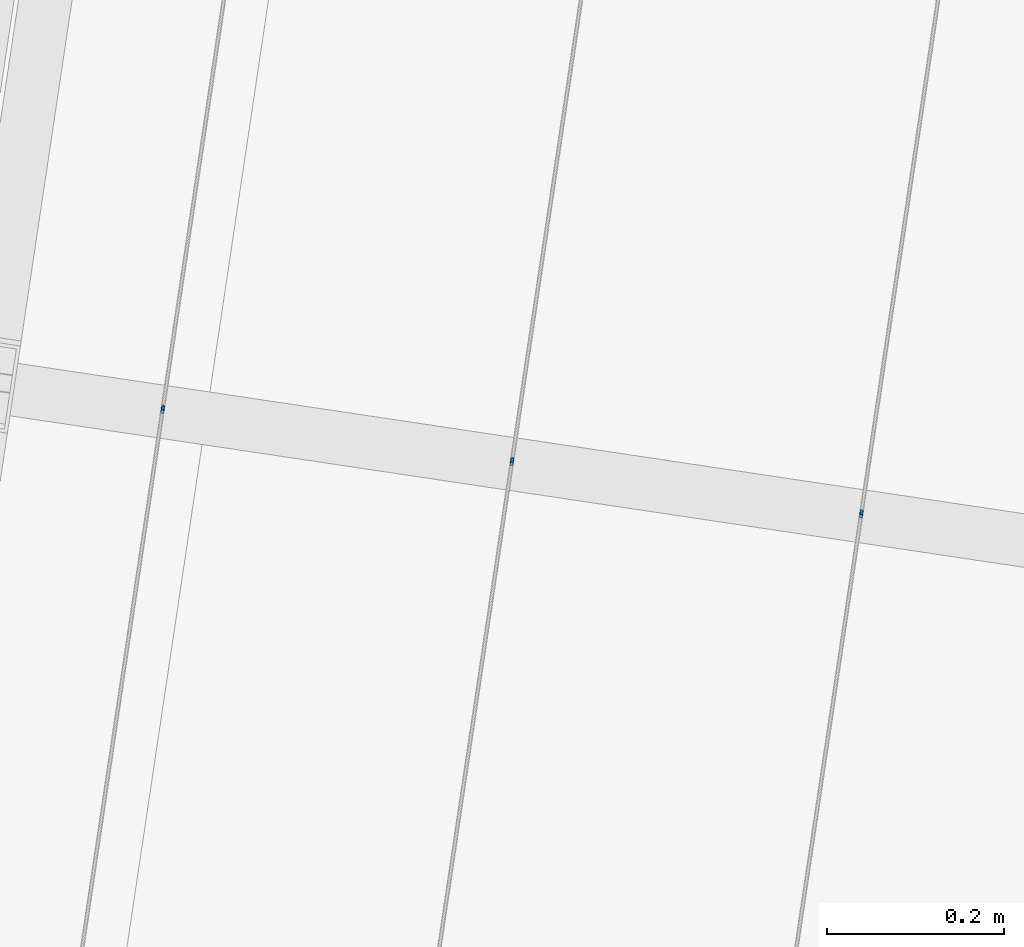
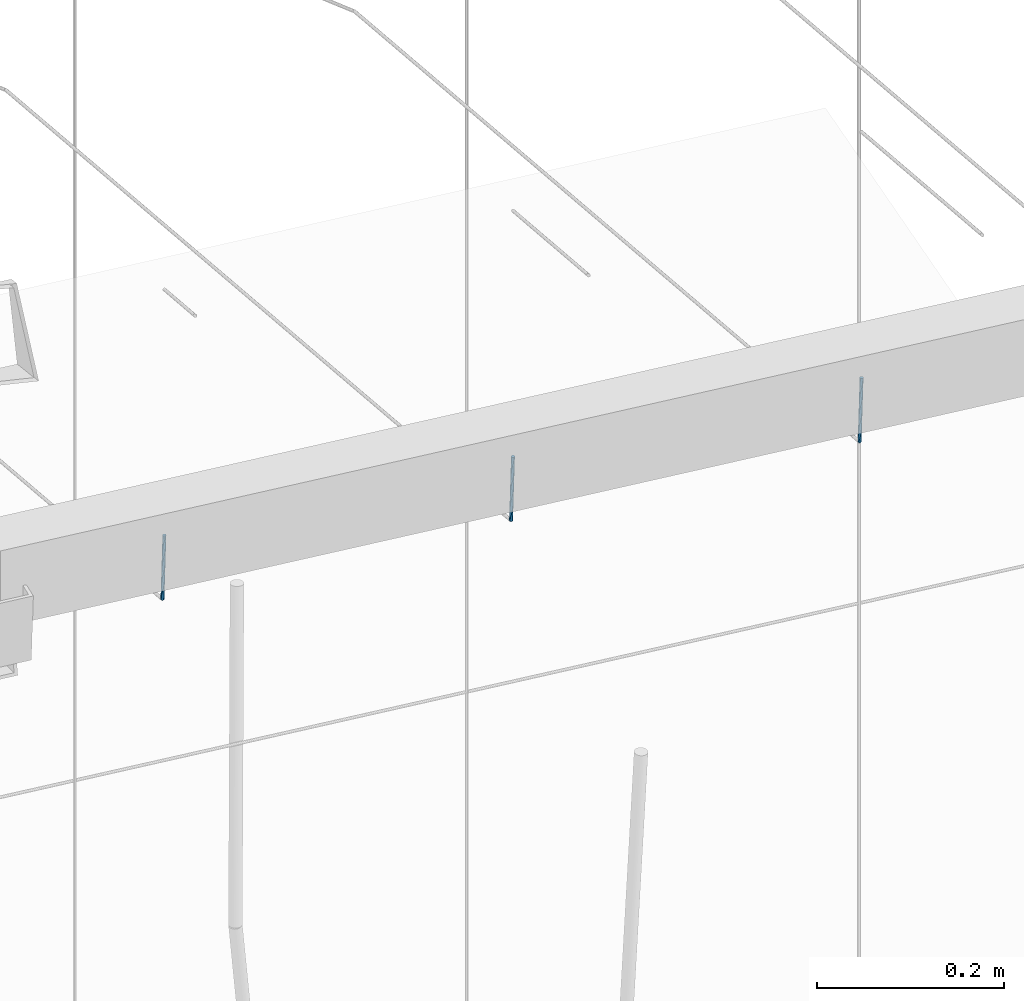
# One storey, part 125 of 142: 3 members, 1 element without a shape of its own.
"""IFC4 building model written with IfcOpenShell, lengths in metres."""

from ifc_helpers import new_model, si_unit, direction, frame, origin_with_axes, place, context, subcontext, project, spatial, circle, extrude, material, material_profile, profile_set, profile_usage, type_object, element, aggregate, save


model = new_model("IFC4")

# Units and contexts
model_context = context("Model", 3, precision=1e-05, world=origin_with_axes(), true_north=direction((0.0, 1.0)))
body_context = subcontext(model_context, "Body", "Model", "MODEL_VIEW")
ifc_project = project(units=[si_unit("VOLUMEUNIT", "CUBIC_METRE"), si_unit("LENGTHUNIT", "METRE"), si_unit("AREAUNIT", "SQUARE_METRE")], contexts=[model_context])

# Site, building, storey
site_placement = place(None, origin_with_axes())
site = spatial("IfcSite", under=ifc_project, at=site_placement, Name="Lares · Rua das Mercês · artigo 4771")
building_placement = place(site_placement, frame((12.0, 10.2, 13.9), z_axis=(0.0, 0.0, 1.0), x_axis=(0.989015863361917, -0.147809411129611, 0.0)))
building = spatial("IfcBuilding", under=site, at=building_placement, Name="Casa Sobreposta")
storey_placement = place(building_placement, origin_with_axes())
storey = spatial("IfcBuildingStorey", under=building, at=storey_placement, Name="00 · Habitação e estacionamento", Elevation=13.9)

# Assembly, members
assembly_placement = place(storey_placement, origin_with_axes())
assembly = element("IfcElementAssembly", 1, at=assembly_placement, inside=storey, Name="Pérgola · prolongamento da estufa 6 m", ObjectType="PERGOLA_GREENHOUSE_EXTENSION", PredefinedType="USERDEFINED")
ifc_material = material(Name="Aço galvanizado / Stahl verzinkt", Category="steel")
ifc_material_profile = material_profile(ifc_material, circle(Radius=0.002))
ifc_profile_set = profile_set([ifc_material_profile], Name="D0.004")
ifc_profile_usage_1 = profile_usage(ifc_profile_set)
member_type = type_object("IfcMemberType", Name="D0.004 / galvanized", PredefinedType="NOTDEFINED", material=ifc_profile_set)
member_1_placement = place(assembly_placement, frame((-5.8, 3.68002089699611, 7.30067689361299), z_axis=(0.0, 0.0651953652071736, -0.997872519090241), x_axis=(1.0, 0.0, 0.0)))
member_1 = element("IfcMember", 2, at=member_1_placement, type_object=member_type, material=ifc_profile_usage_1, Name="Pérgola · fio para trepadeiras", context=body_context, shape_type="SweptSolid", body=[
    extrude(circle(Radius=0.002), origin_with_axes(), (0.0, 0.0, 1.0), 0.0875840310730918),
])
ifc_profile_usage_2 = profile_usage(ifc_profile_set)
member_2_placement = place(assembly_placement, frame((-5.4, 3.68002089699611, 7.30067689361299), z_axis=(0.0, 0.0651953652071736, -0.997872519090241), x_axis=(1.0, 0.0, 0.0)))
member_2 = element("IfcMember", 3, at=member_2_placement, type_object=member_type, material=ifc_profile_usage_2, Name="Pérgola · fio para trepadeiras", context=body_context, shape_type="SweptSolid", body=[
    extrude(circle(Radius=0.002), origin_with_axes(), (0.0, 0.0, 1.0), 0.0875840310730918),
])
ifc_profile_usage_3 = profile_usage(ifc_profile_set)
member_3_placement = place(assembly_placement, frame((-5.0, 3.68002089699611, 7.30067689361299), z_axis=(0.0, 0.0651953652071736, -0.997872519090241), x_axis=(1.0, 0.0, 0.0)))
member_3 = element("IfcMember", 4, at=member_3_placement, type_object=member_type, material=ifc_profile_usage_3, Name="Pérgola · fio para trepadeiras", context=body_context, shape_type="SweptSolid", body=[
    extrude(circle(Radius=0.002), origin_with_axes(), (0.0, 0.0, 1.0), 0.0875840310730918),
])
aggregate(assembly, [member_1, member_2, member_3])

save(model, "model.ifc")
